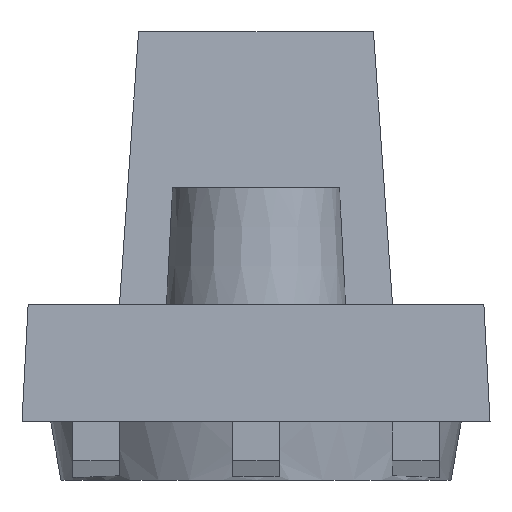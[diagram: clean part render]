
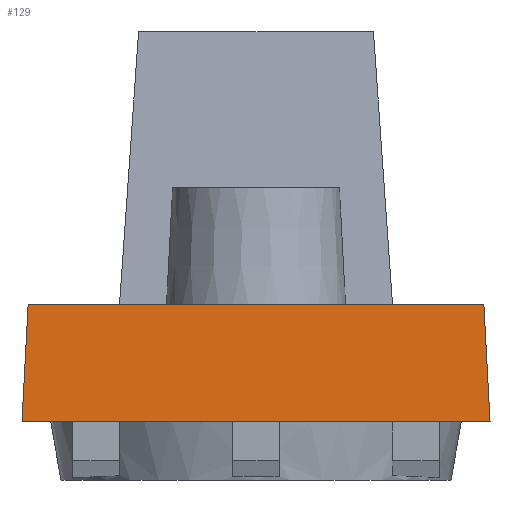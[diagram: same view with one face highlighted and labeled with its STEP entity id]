
A CAD part, left-side view. The second image highlights one B-rep face of the part: STEP entity #129.
In plain terms, the highlighted planar face has unit normal (-0.999, 0, 0.052).
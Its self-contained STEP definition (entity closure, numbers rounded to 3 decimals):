
#21 = EDGE_CURVE('',#22,#24,#26,.T.);
#22 = VERTEX_POINT('',#23);
#23 = CARTESIAN_POINT('',(-193.5,-60.,0.));
#24 = VERTEX_POINT('',#25);
#25 = CARTESIAN_POINT('',(-191.928,-58.428,30.));
#26 = SURFACE_CURVE('',#27,(#31,#42),.PCURVE_S1.);
#27 = LINE('',#28,#29);
#28 = CARTESIAN_POINT('',(-193.336,-59.836,3.127)
  );
#29 = VECTOR('',#30,1.);
#30 = DIRECTION('',(0.052,0.052,
    0.997));
#31 = PCURVE('',#32,#37);
#32 = PLANE('',#33);
#33 = AXIS2_PLACEMENT_3D('',#34,#35,#36);
#34 = CARTESIAN_POINT('',(-193.5,-60.,0.));
#35 = DIRECTION('',(0.,0.999,-0.052));
#36 = DIRECTION('',(1.,0.,0.));
#37 = DEFINITIONAL_REPRESENTATION('',(#38),#41);
#38 = B_SPLINE_CURVE_WITH_KNOTS('',1,(#39,#40),.UNSPECIFIED.,.F.,.F.,(2,
    2),(-3.136,26.946),.PIECEWISE_BEZIER_KNOTS.);
#39 = CARTESIAN_POINT('',(0.,0.));
#40 = CARTESIAN_POINT('',(1.572,-30.041));
#41 = ( GEOMETRIC_REPRESENTATION_CONTEXT(2) 
PARAMETRIC_REPRESENTATION_CONTEXT() REPRESENTATION_CONTEXT('2D SPACE',''
  ) );
#42 = PCURVE('',#43,#48);
#43 = PLANE('',#44);
#44 = AXIS2_PLACEMENT_3D('',#45,#46,#47);
#45 = CARTESIAN_POINT('',(-193.5,60.,0.));
#46 = DIRECTION('',(0.999,0.,-0.052));
#47 = DIRECTION('',(0.,-1.,0.));
#48 = DEFINITIONAL_REPRESENTATION('',(#49),#52);
#49 = B_SPLINE_CURVE_WITH_KNOTS('',1,(#50,#51),.UNSPECIFIED.,.F.,.F.,(2,
    2),(-3.136,26.946),.PIECEWISE_BEZIER_KNOTS.);
#50 = CARTESIAN_POINT('',(120.,0.));
#51 = CARTESIAN_POINT('',(118.428,-30.041));
#52 = ( GEOMETRIC_REPRESENTATION_CONTEXT(2) 
PARAMETRIC_REPRESENTATION_CONTEXT() REPRESENTATION_CONTEXT('2D SPACE',''
  ) );
#69 = PLANE('',#70);
#70 = AXIS2_PLACEMENT_3D('',#71,#72,#73);
#71 = CARTESIAN_POINT('',(-193.5,-60.,30.));
#72 = DIRECTION('',(0.,0.,-1.));
#73 = DIRECTION('',(-1.,0.,0.));
#119 = PLANE('',#120);
#120 = AXIS2_PLACEMENT_3D('',#121,#122,#123);
#121 = CARTESIAN_POINT('',(-193.5,-60.,0.));
#122 = DIRECTION('',(0.,0.,-1.));
#123 = DIRECTION('',(-1.,0.,0.));
#129 = ADVANCED_FACE('',(#130),#43,.F.);
#130 = FACE_BOUND('',#131,.F.);
#131 = EDGE_LOOP('',(#132,#160,#179,#180));
#132 = ORIENTED_EDGE('',*,*,#133,.T.);
#133 = EDGE_CURVE('',#134,#136,#138,.T.);
#134 = VERTEX_POINT('',#135);
#135 = CARTESIAN_POINT('',(-193.5,60.,0.));
#136 = VERTEX_POINT('',#137);
#137 = CARTESIAN_POINT('',(-191.928,58.428,30.));
#138 = SURFACE_CURVE('',#139,(#143,#149),.PCURVE_S1.);
#139 = LINE('',#140,#141);
#140 = CARTESIAN_POINT('',(-192.971,59.471,
    10.086));
#141 = VECTOR('',#142,1.);
#142 = DIRECTION('',(0.052,-0.052,
    0.997));
#143 = PCURVE('',#43,#144);
#144 = DEFINITIONAL_REPRESENTATION('',(#145),#148);
#145 = B_SPLINE_CURVE_WITH_KNOTS('',1,(#146,#147),.UNSPECIFIED.,.F.,.F.,
  (2,2),(-10.113,19.969),.PIECEWISE_BEZIER_KNOTS.);
#146 = CARTESIAN_POINT('',(0.,0.));
#147 = CARTESIAN_POINT('',(1.572,-30.041));
#148 = ( GEOMETRIC_REPRESENTATION_CONTEXT(2) 
PARAMETRIC_REPRESENTATION_CONTEXT() REPRESENTATION_CONTEXT('2D SPACE',''
  ) );
#149 = PCURVE('',#150,#155);
#150 = PLANE('',#151);
#151 = AXIS2_PLACEMENT_3D('',#152,#153,#154);
#152 = CARTESIAN_POINT('',(193.5,60.,0.));
#153 = DIRECTION('',(0.,-0.999,-0.052));
#154 = DIRECTION('',(-1.,0.,0.));
#155 = DEFINITIONAL_REPRESENTATION('',(#156),#159);
#156 = B_SPLINE_CURVE_WITH_KNOTS('',1,(#157,#158),.UNSPECIFIED.,.F.,.F.,
  (2,2),(-10.113,19.969),.PIECEWISE_BEZIER_KNOTS.);
#157 = CARTESIAN_POINT('',(387.,0.));
#158 = CARTESIAN_POINT('',(385.428,-30.041));
#159 = ( GEOMETRIC_REPRESENTATION_CONTEXT(2) 
PARAMETRIC_REPRESENTATION_CONTEXT() REPRESENTATION_CONTEXT('2D SPACE',''
  ) );
#160 = ORIENTED_EDGE('',*,*,#161,.T.);
#161 = EDGE_CURVE('',#136,#24,#162,.T.);
#162 = SURFACE_CURVE('',#163,(#167,#173),.PCURVE_S1.);
#163 = LINE('',#164,#165);
#164 = CARTESIAN_POINT('',(-191.928,0.,30.));
#165 = VECTOR('',#166,1.);
#166 = DIRECTION('',(0.,-1.,0.));
#167 = PCURVE('',#43,#168);
#168 = DEFINITIONAL_REPRESENTATION('',(#169),#172);
#169 = B_SPLINE_CURVE_WITH_KNOTS('',1,(#170,#171),.UNSPECIFIED.,.F.,.F.,
  (2,2),(-58.428,58.428),.PIECEWISE_BEZIER_KNOTS.);
#170 = CARTESIAN_POINT('',(1.572,-30.041));
#171 = CARTESIAN_POINT('',(118.428,-30.041));
#172 = ( GEOMETRIC_REPRESENTATION_CONTEXT(2) 
PARAMETRIC_REPRESENTATION_CONTEXT() REPRESENTATION_CONTEXT('2D SPACE',''
  ) );
#173 = PCURVE('',#69,#174);
#174 = DEFINITIONAL_REPRESENTATION('',(#175),#178);
#175 = B_SPLINE_CURVE_WITH_KNOTS('',1,(#176,#177),.UNSPECIFIED.,.F.,.F.,
  (2,2),(-58.428,58.428),.PIECEWISE_BEZIER_KNOTS.);
#176 = CARTESIAN_POINT('',(-1.572,118.428));
#177 = CARTESIAN_POINT('',(-1.572,1.572));
#178 = ( GEOMETRIC_REPRESENTATION_CONTEXT(2) 
PARAMETRIC_REPRESENTATION_CONTEXT() REPRESENTATION_CONTEXT('2D SPACE',''
  ) );
#179 = ORIENTED_EDGE('',*,*,#21,.F.);
#180 = ORIENTED_EDGE('',*,*,#181,.F.);
#181 = EDGE_CURVE('',#134,#22,#182,.T.);
#182 = SURFACE_CURVE('',#183,(#187,#193),.PCURVE_S1.);
#183 = LINE('',#184,#185);
#184 = CARTESIAN_POINT('',(-193.5,0.,0.));
#185 = VECTOR('',#186,1.);
#186 = DIRECTION('',(0.,-1.,0.));
#187 = PCURVE('',#43,#188);
#188 = DEFINITIONAL_REPRESENTATION('',(#189),#192);
#189 = B_SPLINE_CURVE_WITH_KNOTS('',1,(#190,#191),.UNSPECIFIED.,.F.,.F.,
  (2,2),(-60.,60.),.PIECEWISE_BEZIER_KNOTS.);
#190 = CARTESIAN_POINT('',(0.,0.));
#191 = CARTESIAN_POINT('',(120.,0.));
#192 = ( GEOMETRIC_REPRESENTATION_CONTEXT(2) 
PARAMETRIC_REPRESENTATION_CONTEXT() REPRESENTATION_CONTEXT('2D SPACE',''
  ) );
#193 = PCURVE('',#119,#194);
#194 = DEFINITIONAL_REPRESENTATION('',(#195),#198);
#195 = B_SPLINE_CURVE_WITH_KNOTS('',1,(#196,#197),.UNSPECIFIED.,.F.,.F.,
  (2,2),(-60.,60.),.PIECEWISE_BEZIER_KNOTS.);
#196 = CARTESIAN_POINT('',(0.,120.));
#197 = CARTESIAN_POINT('',(0.,0.));
#198 = ( GEOMETRIC_REPRESENTATION_CONTEXT(2) 
PARAMETRIC_REPRESENTATION_CONTEXT() REPRESENTATION_CONTEXT('2D SPACE',''
  ) );
